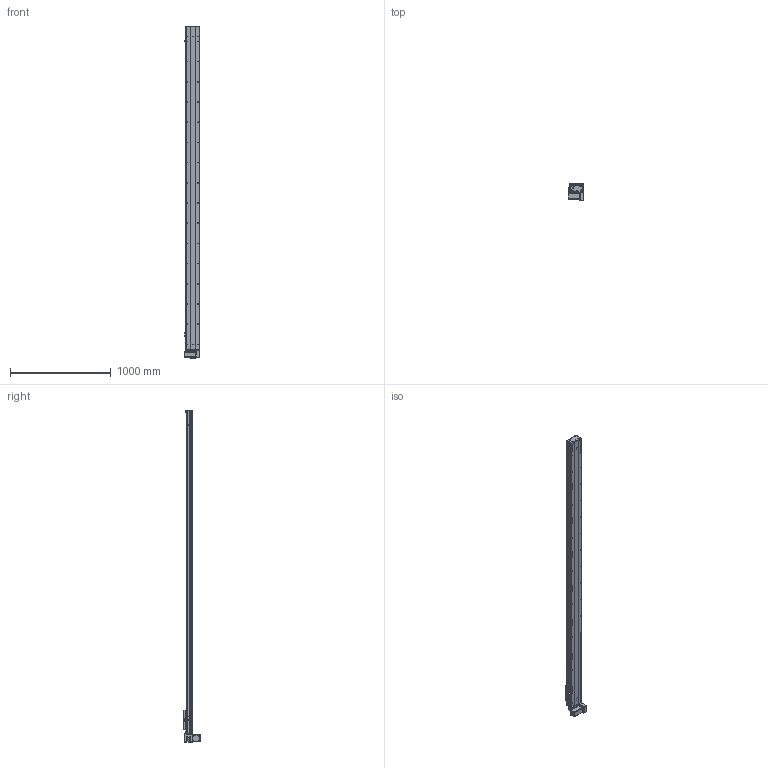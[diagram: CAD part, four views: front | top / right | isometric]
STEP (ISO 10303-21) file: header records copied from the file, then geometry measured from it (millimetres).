
FILE_DESCRIPTION (( 'STEP AP203' ), '1' );
FILE_NAME ('Y135CB-D90-S2900-BM-P400W.STEP', '2020-02-19T02:38:16', ( '微软用户' ), ( '微软中国' ), 'SwSTEP 2.0', 'SolidWorks 2017', '' );
FILE_SCHEMA (( 'CONFIG_CONTROL_DESIGN' ));
Length unit declared in the file: millimetre
Products named in the file (18): Y10B--々湍喘謫眊--666; san松下电机400不带刹车----; 00B-俋欶BM--; 5CB --掛极耜裔啣-; Y10B-耜蚾蟀諉啣----; C-詩湍揤踡え-陔; Y135CB-耜裔; Y135CB-D90-S2900-BM-P400W; 135CB--詩湍-CE; 135CB---遴掛极.-; Y100-135俋离換覜ん--; 35CB---喘謫眊楊擘啣; Y135C-陔俋离換覜結え-; 0B-埴倛裔啣; 5C--俋欶; 0B-源倛裔啣; C-雄赽釱--; 0B-萇儂楊擘啣
Assembly tree (21 placements, depth 2):
  Y135CB-D90-S2900-BM-P400W
    Y135CB-耜裔
    135CB---遴掛极.-
    35CB---喘謫眊楊擘啣
    0B-埴倛裔啣
    0B-源倛裔啣
    0B-萇儂楊擘啣
    san松下电机400不带刹车----
    5CB --掛极耜裔啣-  x2
    C-詩湍揤踡え-陔  x2
    135CB--詩湍-CE
    Y100-135俋离換覜ん--  x3
    Y135C-陔俋离換覜結え-
    5C--俋欶
    C-雄赽釱--
    Y10B--々湍喘謫眊--666
    00B-俋欶BM--
    Y10B-耜蚾蟀諉啣----
Bounding box: 157 x 163.3 x 3288 mm (x, y, z)
Volume: 9320470.2 mm3; surface area: 3697064.1 mm2
Topology: 21 solids, 21 shells, 985 faces, 2707 edges, 1794 vertices
Faces by surface type: cylinder 513, plane 456, cone 16
Entity records: 31369 total; most frequent: CARTESIAN_POINT 5252, DIRECTION 5215, ORIENTED_EDGE 4890, EDGE_CURVE 2445, AXIS2_PLACEMENT_3D 1917, VERTEX_POINT 1622, VECTOR 1381, LINE 1381
